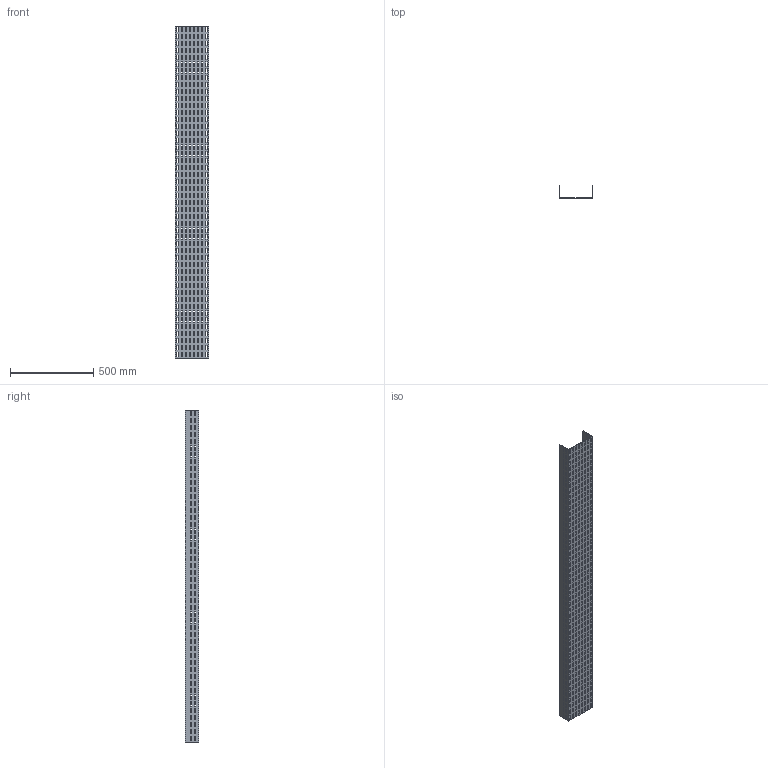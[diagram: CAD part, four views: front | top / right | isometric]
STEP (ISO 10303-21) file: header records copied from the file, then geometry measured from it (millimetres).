
FILE_DESCRIPTION (( 'STEP AP214' ), '1' );
FILE_NAME ('01F2C200.step', '2025-02-21T13:25:28', ( '' ), ( '' ), 'SwSTEP 2.0', 'SolidWorks 2023', '' );
FILE_SCHEMA (( 'AUTOMOTIVE_DESIGN' ));
Products named in the file (1): 01F2C200
Bounding box: 204 x 79 x 2000 mm (x, y, z)
Volume: 2132200 mm3; surface area: 1363909 mm2
Topology: 1 solids, 1 shells, 2314 faces, 6936 edges, 4624 vertices
Faces by surface type: plane 2314
Entity records: 78647 total; most frequent: CARTESIAN_POINT 13875, ORIENTED_EDGE 13872, DIRECTION 11566, VECTOR 6936, EDGE_CURVE 6936, LINE 6936, VERTEX_POINT 4624, EDGE_LOOP 3466
